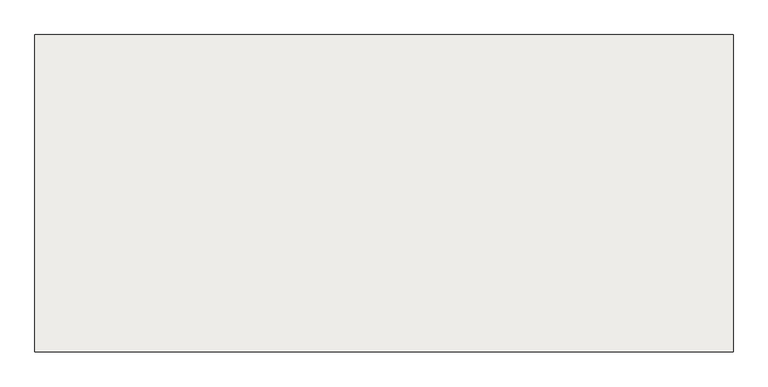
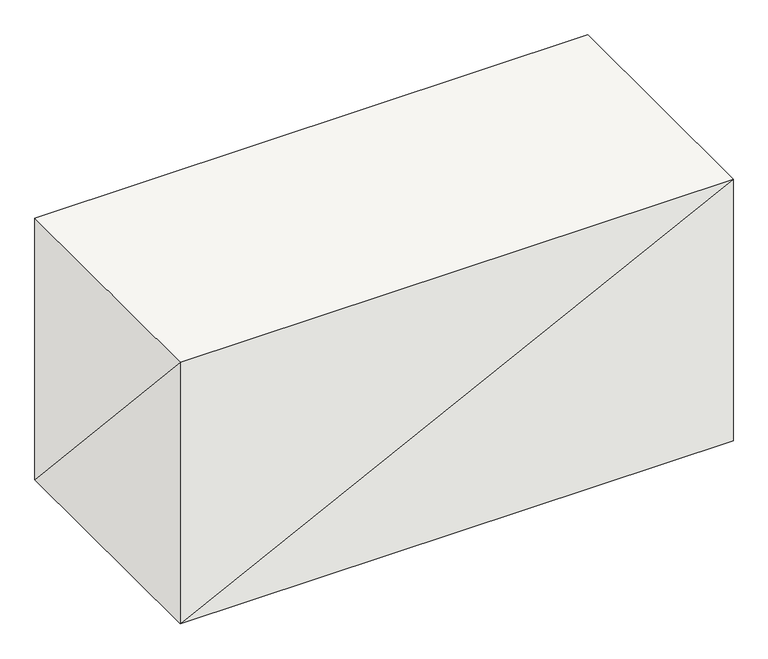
"""IFC4 building model written with IfcOpenShell, lengths in millimetres: slab geometry."""

from ifc_helpers import new_model, si_unit, origin, place, context, project, spatial, faceted_brep, source, transform, mapped, element, save


def slab_4ca8f48c(model_context):
    return source(origin(), model_context, "Body", "Brep", [
        faceted_brep([(550.0, 250.0, -550.0), (550.0, -250.0, -550.0), (-550.0, -250.0, -550.0), (-550.0, 250.0, -550.0), (-550.0, 250.0, 0.0), (-550.0, -250.0, 0.0), (550.0, -250.0, 0.0), (550.0, 250.0, 0.0)], [[[0, 1, 2, 3]], [[4, 5, 6, 7]], [[4, 3, 5]], [[3, 2, 5]], [[5, 2, 6]], [[2, 1, 6]], [[6, 1, 7]], [[1, 0, 7]], [[7, 0, 4]], [[0, 3, 4]]]),
    ])


if __name__ == "__main__":
    model = new_model("IFC4")
    model_context = context("Model", 3, world=origin())
    ifc_project = project(units=[si_unit("LENGTHUNIT", "METRE", prefix="MILLI")], contexts=[model_context])
    site = spatial("IfcSite", under=ifc_project)
    building = spatial("IfcBuilding", under=site)
    placement = place(None, origin())
    slab_shape = slab_4ca8f48c(model_context)
    element("IfcSlab", 1, at=placement, inside=building, context=model_context, shape_type="MappedRepresentation", body=[
        mapped(slab_shape, transform((0.0, 0.0, 0.0), x_axis=(1.0, 0.0, 0.0), y_axis=(0.0, 1.0, 0.0), z_axis=(0.0, 0.0, 1.0))),
    ])
    save(model, "model.ifc")
